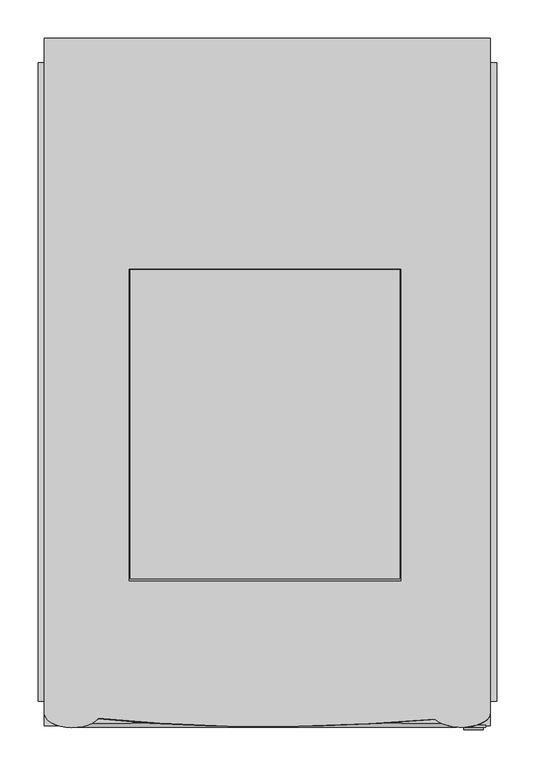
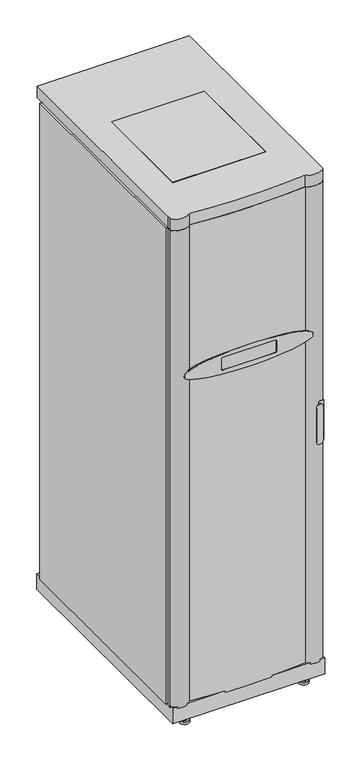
"""IFC4 building model written with IfcOpenShell, lengths in millimetres: proxy geometry, UPS_Symmetra_PX_40_Schneider_Electric_10-40kVA_208V_BIM_Model : SY40K40F."""

from ifc_helpers import new_model, si_unit, point, frame, frame_2d, origin, place, context, project, spatial, polyline, circle_curve, ellipse_curve, trimmed, segment, composite_curve, outline, extrude, source, transform, mapped, element, save
from ifc_brep_helpers import plane_surface, cylinder_surface, revolved_surface, extruded_surface, advanced_brep


def electrical_equipment_14537a31(model_context):
    return source(origin(), model_context, "Body", "SolidModel", [
        extrude(outline(composite_curve([segment(trimmed(circle_curve(frame_2d((-311.7870889, 32.3855437)), 31.0), [point((-342.7870889, 32.3855437))], [point((-280.7870889, 32.3855437))], False, "CARTESIAN"), True, "CONTINUOUS"), segment(trimmed(circle_curve(frame_2d((-311.7870889, 32.3855437)), 31.0), [point((-280.7870889, 32.3855437))], [point((-342.7870889, 32.3855437))], False, "CARTESIAN"), True, "CONTINUOUS")], self_intersect=False)), frame((-250.0, 0.0, 0.0), z_axis=(1.0, 0.0, 0.0), x_axis=(0.0, 1.0, 0.0)), (0.0, 0.0, 1.0), 45.0),
        extrude(outline(composite_curve([segment(trimmed(circle_curve(frame_2d((342.7645858, 32.3855437)), 31.0), [point((311.7645858, 32.3855437))], [point((373.7645858, 32.3855437))], False, "CARTESIAN"), True, "CONTINUOUS"), segment(trimmed(circle_curve(frame_2d((342.7645858, 32.3855437)), 31.0), [point((373.7645858, 32.3855437))], [point((311.7645858, 32.3855437))], False, "CARTESIAN"), True, "CONTINUOUS")], self_intersect=False)), frame((-250.0, 0.0, 0.0), z_axis=(1.0, 0.0, 0.0), x_axis=(0.0, 1.0, 0.0)), (0.0, 0.0, 1.0), 45.0),
        extrude(outline(polyline([(-291.9754412, -416.7999891), (-300.0, -416.7999891), (-300.0, 418.7999891), (-291.9754412, 418.7999891), (-291.9754412, -416.7999891)])), frame((0.0, 0.0, 94.6506352), z_axis=(0.0, 0.0, 1.0), x_axis=(1.0, 0.0, 0.0)), (0.0, 0.0, 1.0), 1928.1966584),
        extrude(outline(polyline([(291.9754412, -416.7999891), (291.9754412, 418.7999891), (300.0, 418.7999891), (300.0, -416.7999891), (291.9754412, -416.7999891)])), frame((0.0, 0.0, 94.6506352), z_axis=(0.0, 0.0, 1.0), x_axis=(1.0, 0.0, 0.0)), (0.0, 0.0, 1.0), 1928.1966584),
        advanced_brep(
        [(222.2501423, -440.3884076, 2023.0), (292.0, -430.4412212, 2023.0), (292.0, -418.7277863, 2023.0), (-292.0002646, -418.7277863, 2023.0), (-292.0002646, -430.4429997, 2023.0), (-221.6523076, -439.6911597, 2023.0), (222.2501423, -440.3884076, 88.0), (-221.6523076, -439.6911597, 88.0), (-292.0002646, -430.4429997, 88.0), (-292.0002646, -418.7277863, 88.0), (292.0, -418.7277863, 88.0), (292.0, -430.4412212, 88.0)],
        [
            (0, 1, ellipse_curve(frame((255.3962372, -432.0052197, 2023.0), z_axis=(0.0, 0.0, 1.0), x_axis=(-0.9999986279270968, -0.0016565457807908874, 0.0)), 36.7167545, 19.3964394)),
            (1, 2),
            (2, 3),
            (3, 4),
            (4, 5, ellipse_curve(frame((-255.3962372, -432.0052197, 2023.0), z_axis=(0.0, 0.0, 1.0), x_axis=(0.9999986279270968, -0.0016565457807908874, 0.0)), 36.7167545, 19.3964394)),
            (5, 0, ellipse_curve(frame((29.6627305, -374.0277099, 2023.0), z_axis=(0.0, 0.0, 1.0), x_axis=(-0.9999276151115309, -0.012031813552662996, 0.0)), 442.7290626, 76.1921436)),
            (6, 7, ellipse_curve(frame((29.6627305, -374.0277099, 88.0), z_axis=(0.0, 0.0, -1.0), x_axis=(-0.9999276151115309, -0.012031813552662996, 0.0)), 442.7290626, 76.1921436)),
            (7, 8, ellipse_curve(frame((-255.3962372, -432.0052197, 88.0), z_axis=(0.0, 0.0, -1.0), x_axis=(0.9999986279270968, -0.0016565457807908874, 0.0)), 36.7167545, 19.3964394)),
            (8, 9),
            (9, 10),
            (10, 11),
            (11, 6, ellipse_curve(frame((255.3962372, -432.0052197, 88.0), z_axis=(0.0, 0.0, -1.0), x_axis=(-0.9999986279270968, -0.0016565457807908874, 0.0)), 36.7167545, 19.3964394)),
            (5, 7),
            (6, 0),
            (11, 1),
            (10, 2),
            (9, 3),
            (8, 4),
        ],
        [
            plane_surface(frame((218.6795331, -432.0660427, 2023.0), z_axis=(0.0, 0.0, 1.0), x_axis=(0.0016565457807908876, -0.9999986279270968, 0.0))),
            plane_surface(frame((218.6795331, -432.0660427, 88.0), z_axis=(0.0, 0.0, -1.0), x_axis=(-0.0016565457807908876, 0.9999986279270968, 0.0))),
            extruded_surface(trimmed(ellipse_curve(frame((29.6627305, -374.0277099, -1847.0), z_axis=(0.0, 0.0, 1.0), x_axis=(-0.9999276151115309, -0.012031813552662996, 0.0)), 442.7290626, 76.1921436), [point((-221.6523076, -439.6911597, -1847.0))], [point((222.2501423, -440.3884076, -1847.0))], True, "CARTESIAN"), (0.0, 0.0, 1935.0), 1935.0),
            extruded_surface(trimmed(ellipse_curve(frame((255.3962372, -432.0052197, -1847.0), z_axis=(0.0, 0.0, 1.0), x_axis=(-0.9999986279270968, -0.0016565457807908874, 0.0)), 36.7167545, 19.3964394), [point((222.2501423, -440.3884076, -1847.0))], [point((292.0, -430.4412212, -1847.0))], True, "CARTESIAN"), (0.0, 0.0, 1935.0), 1935.0),
            plane_surface(frame((292.0, -430.4412212, 2023.0), z_axis=(1.0, 0.0, 0.0), x_axis=(0.0, 0.0, -1.0))),
            plane_surface(frame((292.0, -418.7277863, 2023.0), z_axis=(0.0, 1.0, 0.0), x_axis=(0.0, 0.0, -1.0))),
            plane_surface(frame((-292.0002646, -418.7277863, 2023.0), z_axis=(-1.0, 0.0, 0.0), x_axis=(0.0, 0.0, -1.0))),
            extruded_surface(trimmed(ellipse_curve(frame((-255.3962372, -432.0052197, -1847.0), z_axis=(0.0, 0.0, 1.0), x_axis=(0.9999986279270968, -0.0016565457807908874, 0.0)), 36.7167545, 19.3964394), [point((-292.0002646, -430.4429997, -1847.0))], [point((-221.6523076, -439.6911597, -1847.0))], True, "CARTESIAN"), (0.0, 0.0, 1935.0), 1935.0),
        ],
        [
            (0, [[1, 2, 3, 4, 5, 6]]),
            (1, [[7, 8, 9, 10, 11, 12]]),
            (2, [[-6, 13, -7, 14]]),
            (3, [[-1, -14, -12, 15]]),
            (4, [[-2, -15, -11, 16]]),
            (5, [[-3, -16, -10, 17]]),
            (6, [[-4, -17, -9, 18]]),
            (7, [[-5, -18, -8, -13]]),
        ],
    ),
        extrude(outline(polyline([(-241.3, 419.0), (242.189, 419.0), (242.189, 416.0), (-241.3, 416.0), (-241.3, 419.0)])), frame((0.0, 0.0, 1281.5918276), z_axis=(0.0, 0.0, 1.0), x_axis=(1.0, 0.0, 0.0)), (0.0, 0.0, 1.0), 709.4081724),
        extrude(outline(polyline([(-152.4002426, 419.0), (152.399922, 419.0), (152.399922, 416.0), (-152.4002426, 416.0), (-152.4002426, 419.0)])), frame((0.0, 0.0, 283.0544296), z_axis=(0.0, 0.0, 1.0), x_axis=(1.0, 0.0, 0.0)), (0.0, 0.0, 1.0), 251.9948962),
        extrude(outline(polyline([(2023.0, 292.0), (2023.0, -292.0), (87.7918241, -292.0), (87.7918241, 292.0), (2023.0, 292.0)]), holes=[polyline([(1992.7918276, -244.475), (1992.7918276, 244.475), (1279.8336871, 244.475), (1279.8336871, -244.475), (1992.7918276, -244.475)]), polyline([(577.6556443, -244.475), (577.6556443, 244.475), (237.6284803, 244.475), (237.6284803, -244.475), (577.6556443, -244.475)]), polyline([(1278.4168276, -244.475), (1278.4168276, 244.475), (579.4079236, 244.475), (579.4079236, -244.475), (1278.4168276, -244.475)]), polyline([(125.8918276, -244.475), (229.1682102, -244.475), (229.1682102, 244.475), (125.8918276, 244.475), (125.8918276, -244.475)])]), frame((0.0, 416.0, 0.0), z_axis=(0.0, 1.0, 0.0), x_axis=(0.0, 0.0, 1.0)), (0.0, 0.0, 1.0), 3.0),
        extrude(outline(polyline([(576.6556443, 243.475), (576.6556443, -243.475), (238.6284803, -243.475), (238.6284803, 243.475), (576.6556443, 243.475)]), holes=[polyline([(536.0493257, -153.4002426), (536.0493257, 153.399922), (282.0544296, 153.399922), (282.0544296, -153.4002426), (536.0493257, -153.4002426)])]), frame((0.0, 416.0, 0.0), z_axis=(0.0, 1.0, 0.0), x_axis=(0.0, 0.0, 1.0)), (0.0, 0.0, 1.0), 3.0),
        extrude(outline(polyline([(-243.475, 419.0), (243.475, 419.0), (243.475, 416.0), (-243.475, 416.0), (-243.475, 419.0)])), frame((0.0, 0.0, 580.4079236), z_axis=(0.0, 0.0, 1.0), x_axis=(1.0, 0.0, 0.0)), (0.0, 0.0, 1.0), 697.008904),
        extrude(outline(polyline([(-243.475, 419.0), (-64.8173668, 419.0), (-64.8173668, 416.0), (-243.475, 416.0), (-243.475, 419.0)])), frame((0.0, 0.0, 126.8918276), z_axis=(0.0, 0.0, 1.0), x_axis=(1.0, 0.0, 0.0)), (0.0, 0.0, 1.0), 101.2763826),
        extrude(outline(polyline([(68.475, 419.0), (243.475, 419.0), (243.475, 416.0), (68.475, 416.0), (68.475, 419.0)])), frame((0.0, 0.0, 126.8918276), z_axis=(0.0, 0.0, 1.0), x_axis=(1.0, 0.0, 0.0)), (0.0, 0.0, 1.0), 101.2763826),
        extrude(outline(polyline([(-63.8173668, 419.0), (66.0154872, 419.0), (66.0154872, 416.0), (-63.8173668, 416.0), (-63.8173668, 419.0)])), frame((0.0, 0.0, 126.8918276), z_axis=(0.0, 0.0, 1.0), x_axis=(1.0, 0.0, 0.0)), (0.0, 0.0, 1.0), 101.2763826),
        extrude(outline(polyline([(173.4064401, 147.9764228), (173.4064401, -256.7684699), (-179.6935599, -256.7684699), (-179.6935599, 147.9764228), (173.4064401, 147.9764228)])), frame((0.0, 0.0, 2065.0), z_axis=(0.0, 0.0, 1.0), x_axis=(1.0, 0.0, 0.0)), (0.0, 0.0, 1.0), 5.0),
        advanced_brep(
        [(291.9999982, -432.003258, 2070.0), (291.9999982, 451.0, 2070.0), (-291.9754412, 451.0, 2070.0), (-291.9754412, -417.7277863, 2070.0), (-291.9754412, -430.2843834, 2070.0), (-221.2746522, -439.208599, 2070.0), (219.5142543, -440.255771, 2070.0), (-180.9435599, 148.2986256, 2070.0), (174.6564401, 148.2986256, 2070.0), (174.6564401, -258.9462671, 2070.0), (-180.9435599, -258.9462671, 2070.0), (291.9999982, -432.003258, 2023.0), (219.5142543, -440.255771, 2023.0), (-221.2746522, -439.208599, 2023.0), (-291.9754412, -430.2843834, 2023.0), (-291.9754412, -417.7277863, 2023.0), (-291.9754412, 451.0, 2023.0), (291.9999982, 451.0, 2023.0), (-180.9435599, 148.2986256, 2023.0), (-180.9435599, -258.9462671, 2023.0), (174.6564401, -258.9462671, 2023.0), (174.6564401, 148.2986256, 2023.0)],
        [
            (0, 1),
            (1, 2),
            (2, 3),
            (3, 4),
            (4, 5, ellipse_curve(frame((-255.3962372, -432.0052197, 2070.0), z_axis=(0.0, 0.0, 1.0), x_axis=(0.9999986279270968, -0.0016565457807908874, 0.0)), 36.7167545, 19.3964394)),
            (5, 6, ellipse_curve(frame((30.3214541, -373.5688148, 2070.0), z_axis=(0.0, 0.0, 1.0), x_axis=(-0.9999276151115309, -0.012031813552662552, 0.0)), 442.7223046, 76.2005527)),
            (6, 0, ellipse_curve(frame((253.8999477, -432.0509596, 2070.0), z_axis=(0.0, 0.0, 1.0), x_axis=(-0.9999986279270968, -0.0016565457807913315, 0.0)), 38.1000899, 18.9518044)),
            (7, 8),
            (8, 9),
            (9, 10),
            (10, 7),
            (11, 12, ellipse_curve(frame((253.8999477, -432.0509596, 2023.0), z_axis=(0.0, 0.0, -1.0), x_axis=(-0.9999986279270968, -0.0016565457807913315, 0.0)), 38.1000899, 18.9518044)),
            (12, 13, ellipse_curve(frame((30.3214541, -373.5688148, 2023.0), z_axis=(0.0, 0.0, -1.0), x_axis=(-0.9999276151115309, -0.012031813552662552, 0.0)), 442.7223046, 76.2005527)),
            (13, 14, ellipse_curve(frame((-255.3962372, -432.0052197, 2023.0), z_axis=(0.0, 0.0, -1.0), x_axis=(0.9999986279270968, -0.0016565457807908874, 0.0)), 36.7167545, 19.3964394)),
            (14, 15),
            (15, 16),
            (16, 17),
            (17, 11),
            (18, 19),
            (19, 20),
            (20, 21),
            (21, 18),
            (0, 11),
            (17, 1),
            (16, 2),
            (15, 3),
            (14, 4),
            (5, 13),
            (12, 6),
            (7, 18),
            (21, 8),
            (20, 9),
            (19, 10),
        ],
        [
            plane_surface(frame((291.9999982, -432.003258, 2070.0), z_axis=(0.0, 0.0, 1.0), x_axis=(0.0, 1.0, 0.0))),
            plane_surface(frame((291.9999982, -432.003258, 2023.0), z_axis=(0.0, 0.0, -1.0), x_axis=(0.0, -1.0, 0.0))),
            plane_surface(frame((291.9999982, -432.003258, 2070.0), z_axis=(1.0, 0.0, 0.0), x_axis=(0.0, 0.0, -1.0))),
            plane_surface(frame((291.9999982, 451.0, 2070.0), z_axis=(0.0, 1.0, 0.0), x_axis=(0.0, 0.0, -1.0))),
            plane_surface(frame((-291.9754412, 451.0, 2070.0), z_axis=(-1.0, 0.0, 0.0), x_axis=(0.0, 0.0, -1.0))),
            plane_surface(frame((-291.9754412, -417.7277863, 2070.0), z_axis=(-1.0, 0.0, 0.0), x_axis=(0.0, 0.0, -1.0))),
            extruded_surface(trimmed(ellipse_curve(frame((30.3214541, -373.5688148, 1976.0), z_axis=(0.0, 0.0, 1.0), x_axis=(-0.9999276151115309, -0.012031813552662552, 0.0)), 442.7223046, 76.2005527), [point((-221.2746522, -439.208599, 1976.0))], [point((219.5142543, -440.255771, 1976.0))], True, "CARTESIAN"), (0.0, 0.0, 47.0), 47.0),
            extruded_surface(trimmed(ellipse_curve(frame((253.8999477, -432.0509596, 1976.0), z_axis=(0.0, 0.0, 1.0), x_axis=(-0.9999986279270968, -0.0016565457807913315, 0.0)), 38.1000899, 18.9518044), [point((219.5142543, -440.255771, 1976.0))], [point((291.9999982, -432.003258, 1976.0))], True, "CARTESIAN"), (0.0, 0.0, 47.0), 47.0),
            plane_surface(frame((-180.9435599, 148.2986256, 2070.0), z_axis=(0.0, -1.0, 0.0), x_axis=(0.0, 0.0, -1.0))),
            plane_surface(frame((174.6564401, 148.2986256, 2070.0), z_axis=(-1.0, 0.0, 0.0), x_axis=(0.0, 0.0, -1.0))),
            plane_surface(frame((174.6564401, -258.9462671, 2070.0), z_axis=(0.0, 1.0, 0.0), x_axis=(0.0, 0.0, -1.0))),
            plane_surface(frame((-180.9435599, -258.9462671, 2070.0), z_axis=(1.0, 0.0, 0.0), x_axis=(0.0, 0.0, -1.0))),
            extruded_surface(trimmed(ellipse_curve(frame((-255.3962372, -432.0052197, 1976.0), z_axis=(0.0, 0.0, 1.0), x_axis=(0.9999986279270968, -0.0016565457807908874, 0.0)), 36.7167545, 19.3964394), [point((-291.9754412, -430.2843834, 1976.0))], [point((-221.2746522, -439.208599, 1976.0))], True, "CARTESIAN"), (0.0, 0.0, 47.0), 47.0),
        ],
        [
            (0, [[1, 2, 3, 4, 5, 6, 7], [8, 9, 10, 11]]),
            (1, [[12, 13, 14, 15, 16, 17, 18], [19, 20, 21, 22]]),
            (2, [[-1, 23, -18, 24]]),
            (3, [[-2, -24, -17, 25]]),
            (4, [[-3, -25, -16, 26]]),
            (5, [[-4, -26, -15, 27]]),
            (6, [[-6, 28, -13, 29]]),
            (7, [[-7, -29, -12, -23]]),
            (8, [[-8, 30, -22, 31]]),
            (9, [[-9, -31, -21, 32]]),
            (10, [[-10, -32, -20, 33]]),
            (11, [[-11, -33, -19, -30]]),
            (12, [[-5, -27, -14, -28]]),
        ],
    ),
        extrude(outline(polyline([(292.0, 451.0), (292.0, -448.9566788), (-292.0, -448.9566788), (-292.0, 451.0), (292.0, 451.0)]), holes=[polyline([(137.8712513, 305.0306758), (-138.8829153, 305.0306758), (-138.8829153, 175.7973335), (137.8712513, 175.7973335), (137.8712513, 305.0306758)])]), frame((0.0, 0.0, 31.0), z_axis=(0.0, 0.0, 1.0), x_axis=(1.0, 0.0, 0.0)), (0.0, 0.0, 1.0), 63.6506352),
        extrude(outline(polyline([(-22.2170195, 301.9019066), (-22.2170195, 180.4887103), (-136.1158589, 180.4887103), (-136.1158589, 301.9019066), (-22.2170195, 301.9019066)])), frame((0.0, 0.0, 31.0), z_axis=(0.0, 0.0, 1.0), x_axis=(1.0, 0.0, 0.0)), (0.0, 0.0, 1.0), 63.6506352),
        extrude(outline(polyline([(-20.2170195, 301.9019066), (16.4778681, 301.9019066), (16.4778681, 180.4887103), (-20.2170195, 180.4887103), (-20.2170195, 301.9019066)])), frame((0.0, 0.0, 31.0), z_axis=(0.0, 0.0, 1.0), x_axis=(1.0, 0.0, 0.0)), (0.0, 0.0, 1.0), 63.6506352),
        extrude(outline(polyline([(18.4778681, 301.9019066), (132.3767075, 301.9019066), (132.3767075, 180.4887103), (18.4778681, 180.4887103), (18.4778681, 301.9019066)])), frame((0.0, 0.0, 31.0), z_axis=(0.0, 0.0, 1.0), x_axis=(1.0, 0.0, 0.0)), (0.0, 0.0, 1.0), 63.6506352),
        advanced_brep(
        [(-246.4713593, -417.5253847, 10.0), (-210.4713593, -417.5253847, 10.0), (-219.4213593, -417.5253847, 10.0), (-237.5213593, -417.5253847, 10.0), (-246.4713593, -417.5253847, 0.0), (-210.4713593, -417.5253847, 0.0), (-237.5213593, -417.5253847, 32.0), (-219.4213593, -417.5253847, 32.0)],
        [
            (0, 1, circle_curve(frame((-228.4713593, -417.5253847, 10.0), z_axis=(0.0, 0.0, 1.0), x_axis=(1.0, 0.0, 0.0)), 18.0)),
            (1, 0, circle_curve(frame((-228.4713593, -417.5253847, 10.0), z_axis=(0.0, 0.0, 1.0), x_axis=(1.0, 0.0, 0.0)), 18.0)),
            (2, 3, circle_curve(frame((-228.4713593, -417.5253847, 10.0), z_axis=(0.0, 0.0, -1.0), x_axis=(1.0, 0.0, 0.0)), 9.05)),
            (3, 2, circle_curve(frame((-228.4713593, -417.5253847, 10.0), z_axis=(0.0, 0.0, -1.0), x_axis=(1.0, 0.0, 0.0)), 9.05)),
            (4, 5, circle_curve(frame((-228.4713593, -417.5253847, 0.0), z_axis=(0.0, 0.0, -1.0), x_axis=(1.0, 0.0, 0.0)), 18.0)),
            (5, 4, circle_curve(frame((-228.4713593, -417.5253847, 0.0), z_axis=(0.0, 0.0, -1.0), x_axis=(1.0, 0.0, 0.0)), 18.0)),
            (0, 4),
            (5, 1),
            (6, 7, circle_curve(frame((-228.4713593, -417.5253847, 32.0), z_axis=(0.0, 0.0, 1.0), x_axis=(1.0, 0.0, 0.0)), 9.05)),
            (7, 6, circle_curve(frame((-228.4713593, -417.5253847, 32.0), z_axis=(0.0, 0.0, 1.0), x_axis=(1.0, 0.0, 0.0)), 9.05)),
            (6, 3),
            (2, 7),
        ],
        [
            plane_surface(frame((-210.4713593, -417.5253847, 10.0), z_axis=(0.0, 0.0, 1.0), x_axis=(0.0, 1.0, 0.0))),
            plane_surface(frame((-210.4713593, -417.5253847, 0.0), z_axis=(0.0, 0.0, -1.0), x_axis=(0.0, -1.0, 0.0))),
            cylinder_surface(frame((-228.4713593, -417.5253847, 0.0), z_axis=(0.0, 0.0, 1.0), x_axis=(1.0, 0.0, 0.0)), 18.0),
            plane_surface(frame((-219.6753593, 423.9372819, 32.0), z_axis=(0.0, 0.0, 1.0), x_axis=(0.0, 1.0, 0.0))),
            cylinder_surface(frame((-228.4713593, -417.5253847, 0.0), z_axis=(0.0, 0.0, 1.0), x_axis=(1.0, 0.0, 0.0)), 9.05),
        ],
        [
            (0, [[1, 2], [3, 4]]),
            (1, [[5, 6]]),
            (2, [[-1, 7, -6, 8]]),
            (2, [[-2, -8, -5, -7]]),
            (3, [[9, 10]]),
            (4, [[-9, 11, -3, 12]]),
            (4, [[-10, -12, -4, -11]]),
        ],
    ),
        advanced_brep(
        [(-246.7253593, 423.9372819, 10.0), (-210.7253593, 423.9372819, 10.0), (-219.6753593, 423.9372819, 10.0), (-237.7753593, 423.9372819, 10.0), (-246.7253593, 423.9372819, 0.0), (-210.7253593, 423.9372819, 0.0), (-237.7753593, 423.9372819, 32.0), (-219.6753593, 423.9372819, 32.0)],
        [
            (0, 1, circle_curve(frame((-228.7253593, 423.9372819, 10.0), z_axis=(0.0, 0.0, 1.0), x_axis=(1.0, 0.0, 0.0)), 18.0)),
            (1, 0, circle_curve(frame((-228.7253593, 423.9372819, 10.0), z_axis=(0.0, 0.0, 1.0), x_axis=(1.0, 0.0, 0.0)), 18.0)),
            (2, 3, circle_curve(frame((-228.7253593, 423.9372819, 10.0), z_axis=(0.0, 0.0, -1.0), x_axis=(1.0, 0.0, 0.0)), 9.05)),
            (3, 2, circle_curve(frame((-228.7253593, 423.9372819, 10.0), z_axis=(0.0, 0.0, -1.0), x_axis=(1.0, 0.0, 0.0)), 9.05)),
            (4, 5, circle_curve(frame((-228.7253593, 423.9372819, 0.0), z_axis=(0.0, 0.0, -1.0), x_axis=(1.0, 0.0, 0.0)), 18.0)),
            (5, 4, circle_curve(frame((-228.7253593, 423.9372819, 0.0), z_axis=(0.0, 0.0, -1.0), x_axis=(1.0, 0.0, 0.0)), 18.0)),
            (0, 4),
            (5, 1),
            (6, 7, circle_curve(frame((-228.7253593, 423.9372819, 32.0), z_axis=(0.0, 0.0, 1.0), x_axis=(1.0, 0.0, 0.0)), 9.05)),
            (7, 6, circle_curve(frame((-228.7253593, 423.9372819, 32.0), z_axis=(0.0, 0.0, 1.0), x_axis=(1.0, 0.0, 0.0)), 9.05)),
            (6, 3),
            (2, 7),
        ],
        [
            plane_surface(frame((-210.4713593, -417.5253847, 10.0), z_axis=(0.0, 0.0, 1.0), x_axis=(0.0, 1.0, 0.0))),
            plane_surface(frame((-210.4713593, -417.5253847, 0.0), z_axis=(0.0, 0.0, -1.0), x_axis=(0.0, -1.0, 0.0))),
            cylinder_surface(frame((-228.7253593, 423.9372819, 0.0), z_axis=(0.0, 0.0, 1.0), x_axis=(1.0, 0.0, 0.0)), 18.0),
            plane_surface(frame((-219.6753593, 423.9372819, 32.0), z_axis=(0.0, 0.0, 1.0), x_axis=(0.0, 1.0, 0.0))),
            cylinder_surface(frame((-228.7253593, 423.9372819, 10.0), z_axis=(0.0, 0.0, 1.0), x_axis=(1.0, 0.0, 0.0)), 9.05),
        ],
        [
            (0, [[1, 2], [3, 4]]),
            (1, [[5, 6]]),
            (2, [[-1, 7, -6, 8]]),
            (2, [[-2, -8, -5, -7]]),
            (3, [[9, 10]]),
            (4, [[-9, 11, -3, 12]]),
            (4, [[-10, -12, -4, -11]]),
        ],
    ),
        advanced_brep(
        [(210.4713593, -417.5253847, 10.0), (246.4713593, -417.5253847, 10.0), (237.5213593, -417.5253847, 10.0), (219.4213593, -417.5253847, 10.0), (210.4713593, -417.5253847, 0.0), (246.4713593, -417.5253847, 0.0), (219.4213593, -417.5253847, 32.0), (237.5213593, -417.5253847, 32.0)],
        [
            (0, 1, circle_curve(frame((228.4713593, -417.5253847, 10.0), z_axis=(0.0, 0.0, 1.0), x_axis=(1.0, 0.0, 0.0)), 18.0)),
            (1, 0, circle_curve(frame((228.4713593, -417.5253847, 10.0), z_axis=(0.0, 0.0, 1.0), x_axis=(1.0, 0.0, 0.0)), 18.0)),
            (2, 3, circle_curve(frame((228.4713593, -417.5253847, 10.0), z_axis=(0.0, 0.0, -1.0), x_axis=(1.0, 0.0, 0.0)), 9.05)),
            (3, 2, circle_curve(frame((228.4713593, -417.5253847, 10.0), z_axis=(0.0, 0.0, -1.0), x_axis=(1.0, 0.0, 0.0)), 9.05)),
            (4, 5, circle_curve(frame((228.4713593, -417.5253847, 0.0), z_axis=(0.0, 0.0, -1.0), x_axis=(1.0, 0.0, 0.0)), 18.0)),
            (5, 4, circle_curve(frame((228.4713593, -417.5253847, 0.0), z_axis=(0.0, 0.0, -1.0), x_axis=(1.0, 0.0, 0.0)), 18.0)),
            (6, 7, circle_curve(frame((228.4713593, -417.5253847, 32.0), z_axis=(0.0, 0.0, 1.0), x_axis=(1.0, 0.0, 0.0)), 9.05)),
            (7, 6, circle_curve(frame((228.4713593, -417.5253847, 32.0), z_axis=(0.0, 0.0, 1.0), x_axis=(1.0, 0.0, 0.0)), 9.05)),
            (0, 4),
            (5, 1),
            (6, 3),
            (2, 7),
        ],
        [
            plane_surface(frame((-210.4713593, -417.5253847, 10.0), z_axis=(0.0, 0.0, 1.0), x_axis=(0.0, 1.0, 0.0))),
            plane_surface(frame((-210.4713593, -417.5253847, 0.0), z_axis=(0.0, 0.0, -1.0), x_axis=(0.0, -1.0, 0.0))),
            plane_surface(frame((-219.6753593, 423.9372819, 32.0), z_axis=(0.0, 0.0, 1.0), x_axis=(0.0, 1.0, 0.0))),
            cylinder_surface(frame((228.4713593, -417.5253847, 0.0), z_axis=(0.0, 0.0, 1.0), x_axis=(1.0, 0.0, 0.0)), 18.0),
            cylinder_surface(frame((228.4713593, -417.5253847, 0.0), z_axis=(0.0, 0.0, 1.0), x_axis=(1.0, 0.0, 0.0)), 9.05),
        ],
        [
            (0, [[1, 2], [3, 4]]),
            (1, [[5, 6]]),
            (2, [[7, 8]]),
            (3, [[-1, 9, -6, 10]]),
            (3, [[-2, -10, -5, -9]]),
            (4, [[-7, 11, -3, 12]]),
            (4, [[-8, -12, -4, -11]]),
        ],
    ),
        advanced_brep(
        [(210.7253593, 423.9372819, 10.0), (246.7253593, 423.9372819, 10.0), (237.7753593, 423.9372819, 10.0), (219.6753593, 423.9372819, 10.0), (210.7253593, 423.9372819, 0.0), (246.7253593, 423.9372819, 0.0), (219.6753593, 423.9372819, 32.0), (237.7753593, 423.9372819, 32.0)],
        [
            (0, 1, circle_curve(frame((228.7253593, 423.9372819, 10.0), z_axis=(0.0, 0.0, 1.0), x_axis=(1.0, 0.0, 0.0)), 18.0)),
            (1, 0, circle_curve(frame((228.7253593, 423.9372819, 10.0), z_axis=(0.0, 0.0, 1.0), x_axis=(1.0, 0.0, 0.0)), 18.0)),
            (2, 3, circle_curve(frame((228.7253593, 423.9372819, 10.0), z_axis=(0.0, 0.0, -1.0), x_axis=(1.0, 0.0, 0.0)), 9.05)),
            (3, 2, circle_curve(frame((228.7253593, 423.9372819, 10.0), z_axis=(0.0, 0.0, -1.0), x_axis=(1.0, 0.0, 0.0)), 9.05)),
            (4, 5, circle_curve(frame((228.7253593, 423.9372819, 0.0), z_axis=(0.0, 0.0, -1.0), x_axis=(1.0, 0.0, 0.0)), 18.0)),
            (5, 4, circle_curve(frame((228.7253593, 423.9372819, 0.0), z_axis=(0.0, 0.0, -1.0), x_axis=(1.0, 0.0, 0.0)), 18.0)),
            (6, 7, circle_curve(frame((228.7253593, 423.9372819, 32.0), z_axis=(0.0, 0.0, 1.0), x_axis=(1.0, 0.0, 0.0)), 9.05)),
            (7, 6, circle_curve(frame((228.7253593, 423.9372819, 32.0), z_axis=(0.0, 0.0, 1.0), x_axis=(1.0, 0.0, 0.0)), 9.05)),
            (0, 4),
            (5, 1),
            (6, 3),
            (2, 7),
        ],
        [
            plane_surface(frame((-210.4713593, -417.5253847, 10.0), z_axis=(0.0, 0.0, 1.0), x_axis=(0.0, 1.0, 0.0))),
            plane_surface(frame((-210.4713593, -417.5253847, 0.0), z_axis=(0.0, 0.0, -1.0), x_axis=(0.0, -1.0, 0.0))),
            plane_surface(frame((-219.6753593, 423.9372819, 32.0), z_axis=(0.0, 0.0, 1.0), x_axis=(0.0, 1.0, 0.0))),
            cylinder_surface(frame((228.7253593, 423.9372819, 0.0), z_axis=(0.0, 0.0, 1.0), x_axis=(1.0, 0.0, 0.0)), 18.0),
            cylinder_surface(frame((228.7253593, 423.9372819, 0.0), z_axis=(0.0, 0.0, 1.0), x_axis=(1.0, 0.0, 0.0)), 9.05),
        ],
        [
            (0, [[1, 2], [3, 4]]),
            (1, [[5, 6]]),
            (2, [[7, 8]]),
            (3, [[-1, 9, -6, 10]]),
            (3, [[-2, -10, -5, -9]]),
            (4, [[-7, 11, -3, 12]]),
            (4, [[-8, -12, -4, -11]]),
        ],
    ),
        extrude(outline(composite_curve([segment(trimmed(circle_curve(frame_2d((-311.7870889, 32.3855437)), 31.0), [point((-342.7870889, 32.3855437))], [point((-280.7870889, 32.3855437))], False, "CARTESIAN"), True, "CONTINUOUS"), segment(trimmed(circle_curve(frame_2d((-311.7870889, 32.3855437)), 31.0), [point((-280.7870889, 32.3855437))], [point((-342.7870889, 32.3855437))], False, "CARTESIAN"), True, "CONTINUOUS")], self_intersect=False)), frame((205.0, 0.0, 0.0), z_axis=(1.0, 0.0, 0.0), x_axis=(0.0, 1.0, 0.0)), (0.0, 0.0, 1.0), 45.0),
        extrude(outline(composite_curve([segment(trimmed(circle_curve(frame_2d((342.7645858, 32.3855437)), 31.0), [point((311.7645858, 32.3855437))], [point((373.7645858, 32.3855437))], False, "CARTESIAN"), True, "CONTINUOUS"), segment(trimmed(circle_curve(frame_2d((342.7645858, 32.3855437)), 31.0), [point((373.7645858, 32.3855437))], [point((311.7645858, 32.3855437))], False, "CARTESIAN"), True, "CONTINUOUS")], self_intersect=False)), frame((205.0, 0.0, 0.0), z_axis=(1.0, 0.0, 0.0), x_axis=(0.0, 1.0, 0.0)), (0.0, 0.0, 1.0), 45.0),
        advanced_brep(
        [(247.8243495, -446.0, 1424.0526063), (-250.9243495, -446.0, 1424.0526063), (98.7851292, -446.0, 1450.3316591), (-98.5310853, -446.0, 1450.3316591), (-104.9875498, -446.0, 1443.849952), (-104.9875498, -446.0, 1405.3701172), (-98.5310853, -446.0, 1398.8884101), (98.7851292, -446.0, 1398.8884101), (105.2416161, -446.0, 1405.3701172), (105.2416161, -446.0, 1443.849952), (247.8243495, -451.0, 1424.0526063), (-250.9243495, -451.0, 1424.0526063), (98.7851292, -451.0, 1450.3316591), (105.2416161, -451.0, 1443.849952), (105.2416161, -451.0, 1405.3701172), (98.7851292, -451.0, 1398.8884101), (-98.5310853, -451.0, 1398.8884101), (-104.9875498, -451.0, 1405.3701172), (-104.9875498, -451.0, 1443.849952), (-98.5310853, -451.0, 1450.3316591)],
        [
            (0, 1, ellipse_curve(frame((-1.55, -446.0, 1424.0526063), z_axis=(0.0, 1.0, 0.0), x_axis=(-1.0, 0.0, 0.0)), 249.3743495, 44.4371064)),
            (1, 0, ellipse_curve(frame((-1.55, -446.0, 1424.0526063), z_axis=(0.0, 1.0, 0.0), x_axis=(-1.0, 0.0, 0.0)), 249.3743495, 44.4371064)),
            (2, 3),
            (3, 4, circle_curve(frame((-98.5057933, -446.0, 1443.849952), z_axis=(0.0, -1.0, 0.0), x_axis=(0.0, 0.0, 1.0)), 6.4817564)),
            (4, 5),
            (5, 6, circle_curve(frame((-98.5310853, -446.0, 1405.3449238), z_axis=(0.0, -1.0, 0.0), x_axis=(0.0, 0.0, 1.0)), 6.4565137)),
            (6, 7),
            (7, 8, circle_curve(frame((98.7598597, -446.0, 1405.3701172), z_axis=(0.0, -1.0, 0.0), x_axis=(0.0, 0.0, 1.0)), 6.4817564)),
            (8, 9),
            (9, 2, circle_curve(frame((98.7851292, -446.0, 1443.8751231), z_axis=(0.0, -1.0, 0.0), x_axis=(0.0, 0.0, 1.0)), 6.4565359)),
            (10, 11, ellipse_curve(frame((-1.55, -451.0, 1424.0526063), z_axis=(0.0, -1.0, 0.0), x_axis=(-1.0, 0.0, 0.0)), 249.3743495, 44.4371064)),
            (11, 10, ellipse_curve(frame((-1.55, -451.0, 1424.0526063), z_axis=(0.0, -1.0, 0.0), x_axis=(-1.0, 0.0, 0.0)), 249.3743495, 44.4371064)),
            (12, 13, circle_curve(frame((98.7851292, -451.0, 1443.8751231), z_axis=(0.0, 1.0, 0.0), x_axis=(0.0, 0.0, 1.0)), 6.4565359)),
            (13, 14),
            (14, 15, circle_curve(frame((98.7598597, -451.0, 1405.3701172), z_axis=(0.0, 1.0, 0.0), x_axis=(0.0, 0.0, 1.0)), 6.4817564)),
            (15, 16),
            (16, 17, circle_curve(frame((-98.5310853, -451.0, 1405.3449238), z_axis=(0.0, 1.0, 0.0), x_axis=(0.0, 0.0, 1.0)), 6.4565137)),
            (17, 18),
            (18, 19, circle_curve(frame((-98.5057933, -451.0, 1443.849952), z_axis=(0.0, 1.0, 0.0), x_axis=(0.0, 0.0, 1.0)), 6.4817564)),
            (19, 12),
            (9, 13),
            (12, 2),
            (8, 14),
            (7, 15),
            (6, 16),
            (5, 17),
            (4, 18),
            (3, 19),
            (1, 11),
            (10, 0),
        ],
        [
            plane_surface(frame((-98.5310853, -446.0, 1450.3316591), z_axis=(0.0, 1.0, 0.0), x_axis=(-1.0, 0.0, 0.0))),
            plane_surface(frame((-98.5310853, -451.0, 1450.3316591), z_axis=(0.0, -1.0, 0.0), x_axis=(1.0, 0.0, 0.0))),
            revolved_surface(polyline([(98.7851292, -451.0, 1450.3316590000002), (98.7851292, -446.0, 1450.3316590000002)]), (98.7851292, -451.0, 1443.8751231), (0.0, -1.0, 0.0)),
            plane_surface(frame((105.2416161, -446.0, 1405.3701172), z_axis=(-1.0, 0.0, 0.0), x_axis=(0.0, -1.0, 0.0))),
            revolved_surface(polyline([(98.7598597, -451.0, 1411.8518736), (98.7598597, -446.0, 1411.8518736)]), (98.7598597, -451.0, 1405.3701172), (0.0, -1.0, 0.0)),
            plane_surface(frame((-98.5310853, -446.0, 1398.8884101), z_axis=(0.0, 0.0, 1.0), x_axis=(0.0, -1.0, 0.0))),
            revolved_surface(polyline([(-98.5310853, -451.0, 1411.8014375), (-98.5310853, -446.0, 1411.8014375)]), (-98.5310853, -451.0, 1405.3449238), (0.0, -1.0, 0.0)),
            plane_surface(frame((-104.9875498, -446.0, 1443.849952), z_axis=(1.0, 0.0, 0.0), x_axis=(0.0, -1.0, 0.0))),
            revolved_surface(polyline([(-98.5057933, -451.0, 1450.3317084), (-98.5057933, -446.0, 1450.3317084)]), (-98.5057933, -451.0, 1443.849952), (0.0, -1.0, 0.0)),
            plane_surface(frame((98.7851292, -446.0, 1450.3316591), z_axis=(0.0, 0.0, -1.0), x_axis=(0.0, -1.0, 0.0))),
            extruded_surface(trimmed(ellipse_curve(frame((-1.55, -456.0, 1424.0526063), z_axis=(0.0, 1.0, 0.0), x_axis=(-1.0, 0.0, 0.0)), 249.3743495, 44.4371064), [point((-250.9243495, -456.0, 1424.0526063))], [point((247.8243495, -456.0, 1424.0526063))], True, "CARTESIAN"), (0.0, 5.0, 0.0), 5.0),
            extruded_surface(trimmed(ellipse_curve(frame((-1.55, -456.0, 1424.0526063), z_axis=(0.0, 1.0, 0.0), x_axis=(-1.0, 0.0, 0.0)), 249.3743495, 44.4371064), [point((247.8243495, -456.0, 1424.0526063))], [point((-250.9243495, -456.0, 1424.0526063))], True, "CARTESIAN"), (0.0, 5.0, 0.0), 5.0),
        ],
        [
            (0, [[1, 2], [3, 4, 5, 6, 7, 8, 9, 10]]),
            (1, [[11, 12], [13, 14, 15, 16, 17, 18, 19, 20]]),
            (2, [[-10, 21, -13, 22]]),
            (3, [[-9, 23, -14, -21]]),
            (4, [[-8, 24, -15, -23]]),
            (5, [[-7, 25, -16, -24]]),
            (6, [[-6, 26, -17, -25]]),
            (7, [[-5, 27, -18, -26]]),
            (8, [[-4, 28, -19, -27]]),
            (9, [[-3, -22, -20, -28]]),
            (10, [[-2, 29, -11, 30]]),
            (11, [[-1, -30, -12, -29]]),
        ],
    ),
        extrude(outline(composite_curve([segment(polyline([(984.1246063, 282.6125), (1120.6496063, 282.6125)]), True, "CONTINUOUS"), segment(trimmed(circle_curve(frame_2d((1120.6496063, 269.9125)), 12.7), [point((1120.6496063, 282.6125))], [point((1120.6496063, 257.2125))], False, "CARTESIAN"), True, "CONTINUOUS"), segment(polyline([(1120.6496063, 257.2125), (984.1246063, 257.2125)]), True, "CONTINUOUS"), segment(trimmed(circle_curve(frame_2d((984.1246063, 269.9125)), 12.7), [point((984.1246063, 257.2125))], [point((984.1246063, 282.6125))], False, "CARTESIAN"), True, "CONTINUOUS")], self_intersect=False)), frame((0.0, -454.0, 0.0), z_axis=(0.0, 1.0, 0.0), x_axis=(0.0, 0.0, 1.0)), (0.0, 0.0, 1.0), 3.0),
        extrude(outline(polyline([(254.0375, -448.0), (285.7875, -448.0), (285.7875, -451.0), (254.0375, -451.0), (254.0375, -448.0)])), frame((0.0, 0.0, 984.1246063), z_axis=(0.0, 0.0, 1.0), x_axis=(1.0, 0.0, 0.0)), (0.0, 0.0, 1.0), 158.75),
    ])


if __name__ == "__main__":
    model = new_model("IFC4")
    model_context = context("Model", 3, world=origin())
    ifc_project = project(units=[si_unit("LENGTHUNIT", "METRE", prefix="MILLI")], contexts=[model_context])
    site = spatial("IfcSite", under=ifc_project)
    building = spatial("IfcBuilding", under=site)
    placement = place(None, origin())
    electrical_equipment_shape = electrical_equipment_14537a31(model_context)
    element("IfcBuildingElementProxy", 1, Name="UPS_Symmetra_PX_40_Schneider_Electric_10-40kVA_208V_BIM_Model : SY40K40F", ObjectType="UPS_Symmetra_PX_40_Schneider_Electric_10-40kVA_208V_BIM_Model : SY40K40F", at=placement, inside=building, context=model_context, shape_type="MappedRepresentation", body=[
        mapped(electrical_equipment_shape, transform((0.0, 0.0, 0.0), x_axis=(1.0, 0.0, 0.0), y_axis=(0.0, 1.0, 0.0), z_axis=(0.0, 0.0, 1.0))),
    ])
    save(model, "model.ifc")
